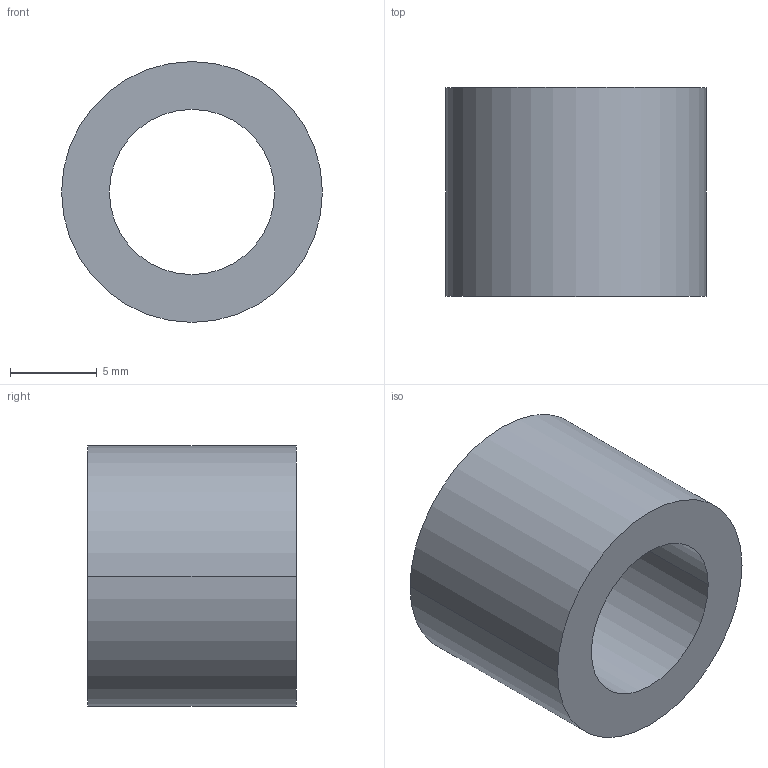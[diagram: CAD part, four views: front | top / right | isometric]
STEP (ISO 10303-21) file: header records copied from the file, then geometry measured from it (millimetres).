
FILE_DESCRIPTION (( 'STEP AP203' ), '1' );
FILE_NAME ('30800.WPP15E9.5.step', '2019-01-23T22:32:55', ( '' ), ( '' ), 'SwSTEP 2.0', 'SolidWorks 2017', '' );
FILE_SCHEMA (( 'CONFIG_CONTROL_DESIGN' ));
Length unit declared in the file: millimetre
Products named in the file (1): 30800.WPP15E9.5
Bounding box: 15 x 12 x 15 mm (x, y, z)
Volume: 1242 mm3; surface area: 1111.5 mm2
Topology: 1 solids, 1 shells, 8 faces, 16 edges, 10 vertices
Faces by surface type: cylinder 4, torus 2, plane 2
Entity records: 297 total; most frequent: DIRECTION 46, CARTESIAN_POINT 35, ORIENTED_EDGE 32, AXIS2_PLACEMENT_3D 21, EDGE_CURVE 16, CIRCLE 12, VERTEX_POINT 10, EDGE_LOOP 10
